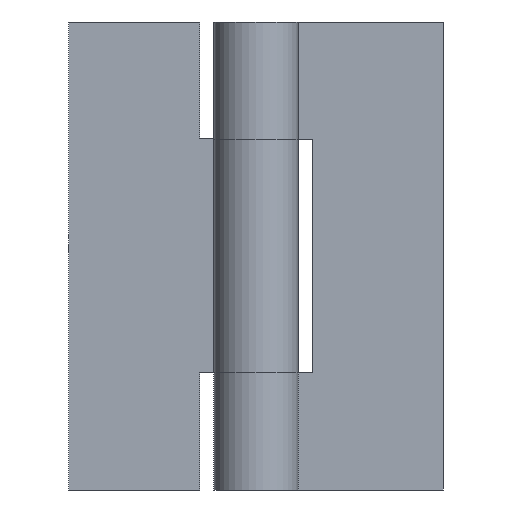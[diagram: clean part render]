
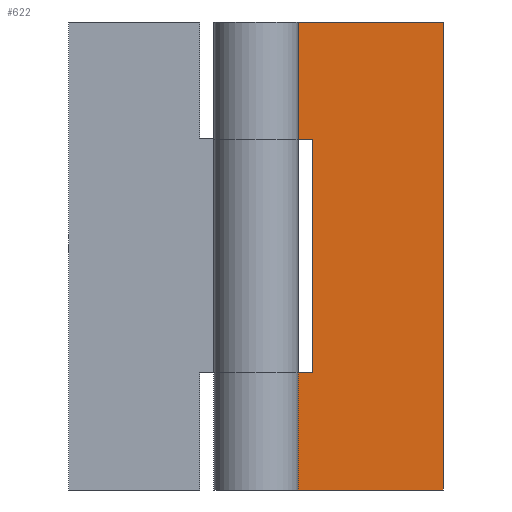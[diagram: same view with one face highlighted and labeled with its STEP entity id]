
A CAD part, front view. The second image highlights one B-rep face of the part: STEP entity #622.
In plain terms, the highlighted planar face has unit normal (0, -1, 0) as drawn and (0, 1, 0) by its records, which use the part's own axes.
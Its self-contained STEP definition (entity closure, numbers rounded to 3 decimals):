
#268=CARTESIAN_POINT('',(13.788,-6.616,50.0));
#269=VERTEX_POINT('',#268);
#277=CARTESIAN_POINT('',(13.788,-6.616,75.0));
#278=VERTEX_POINT('',#277);
#279=CARTESIAN_POINT('',(13.788,-6.616,50.0));
#280=DIRECTION('',(0.0,0.0,1.0));
#281=VECTOR('',#280,25.0);
#282=LINE('',#279,#281);
#283=EDGE_CURVE('',#269,#278,#282,.T.);
#352=CARTESIAN_POINT('',(13.788,-6.616,-25.0));
#353=VERTEX_POINT('',#352);
#361=CARTESIAN_POINT('',(13.788,-6.616,0.0));
#362=VERTEX_POINT('',#361);
#363=CARTESIAN_POINT('',(13.788,-6.616,-25.0));
#364=DIRECTION('',(0.0,0.0,1.0));
#365=VECTOR('',#364,25.0);
#366=LINE('',#363,#365);
#367=EDGE_CURVE('',#353,#362,#366,.T.);
#476=CARTESIAN_POINT('',(1.788,-6.616,50.0));
#477=VERTEX_POINT('',#476);
#484=CARTESIAN_POINT('',(13.788,-6.616,50.0));
#485=DIRECTION('',(-1.0,0.0,0.0));
#486=VECTOR('',#485,12.);
#487=LINE('',#484,#486);
#488=EDGE_CURVE('',#269,#477,#487,.T.);
#515=CARTESIAN_POINT('',(1.788,-6.616,0.0));
#516=VERTEX_POINT('',#515);
#517=CARTESIAN_POINT('',(1.788,-6.616,50.0));
#518=DIRECTION('',(0.0,0.0,-1.0));
#519=VECTOR('',#518,50.0);
#520=LINE('',#517,#519);
#521=EDGE_CURVE('',#477,#516,#520,.T.);
#562=CARTESIAN_POINT('',(1.788,-6.616,0.0));
#563=DIRECTION('',(1.0,0.0,0.0));
#564=VECTOR('',#563,12.);
#565=LINE('',#562,#564);
#566=EDGE_CURVE('',#516,#362,#565,.T.);
#588=CARTESIAN_POINT('',(-14.5,-6.616,-25.0));
#589=DIRECTION('',(0.0,1.0,0.0));
#590=DIRECTION('',(0.0,0.0,1.0));
#591=AXIS2_PLACEMENT_3D('',#588,#589,#590);
#592=PLANE('',#591);
#593=ORIENTED_EDGE('',*,*,#488,.T.);
#594=ORIENTED_EDGE('',*,*,#521,.T.);
#595=ORIENTED_EDGE('',*,*,#566,.T.);
#596=ORIENTED_EDGE('',*,*,#367,.F.);
#597=CARTESIAN_POINT('',(-26.212,-6.616,-25.0));
#598=VERTEX_POINT('',#597);
#599=CARTESIAN_POINT('',(13.788,-6.616,-25.0));
#600=DIRECTION('',(-1.0,0.0,0.0));
#601=VECTOR('',#600,40.0);
#602=LINE('',#599,#601);
#603=EDGE_CURVE('',#353,#598,#602,.T.);
#604=ORIENTED_EDGE('',*,*,#603,.T.);
#605=CARTESIAN_POINT('',(-26.212,-6.616,75.0));
#606=VERTEX_POINT('',#605);
#607=CARTESIAN_POINT('',(-26.212,-6.616,-25.0));
#608=DIRECTION('',(0.0,0.0,1.0));
#609=VECTOR('',#608,100.0);
#610=LINE('',#607,#609);
#611=EDGE_CURVE('',#598,#606,#610,.T.);
#612=ORIENTED_EDGE('',*,*,#611,.T.);
#613=CARTESIAN_POINT('',(-26.212,-6.616,75.0));
#614=DIRECTION('',(1.0,0.0,0.0));
#615=VECTOR('',#614,40.0);
#616=LINE('',#613,#615);
#617=EDGE_CURVE('',#606,#278,#616,.T.);
#618=ORIENTED_EDGE('',*,*,#617,.T.);
#619=ORIENTED_EDGE('',*,*,#283,.F.);
#620=EDGE_LOOP('',(#593,#594,#595,#596,#604,#612,#618,#619));
#621=FACE_OUTER_BOUND('',#620,.T.);
#622=ADVANCED_FACE('',(#621),#592,.T.);
